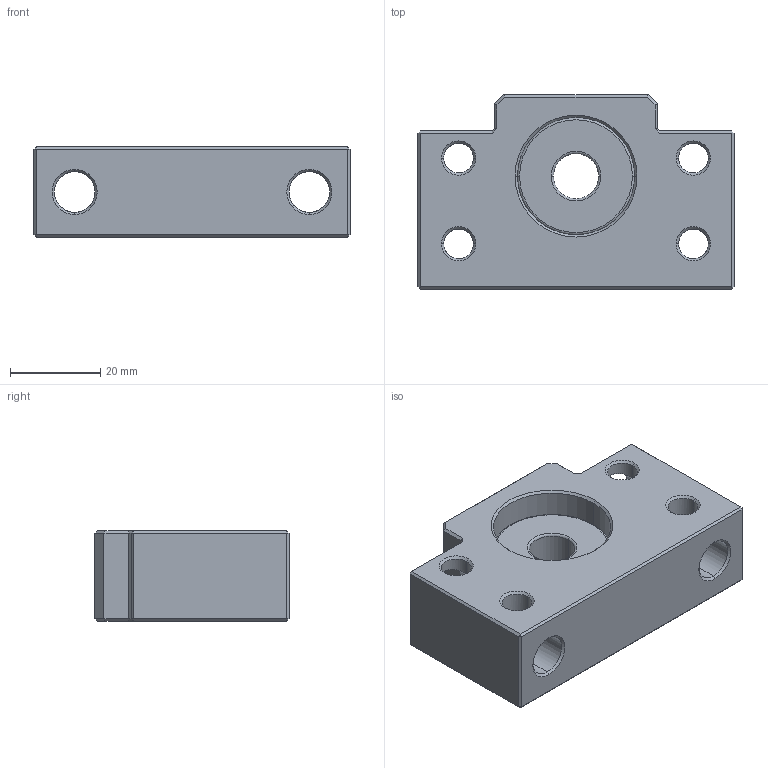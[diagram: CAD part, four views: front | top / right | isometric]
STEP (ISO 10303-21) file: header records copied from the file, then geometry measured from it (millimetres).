
FILE_DESCRIPTION (( 'STEP AP203' ), '1' );
FILE_NAME ('ASGF-12_203.STEP', '2013-02-26T00:33:50', ( '' ), ( '' ), 'SwSTEP 2.0', 'SolidWorks 2012', '' );
FILE_SCHEMA (( 'CONFIG_CONTROL_DESIGN' ));
Length unit declared in the file: millimetre
Products named in the file (1): ASGF-12_203
Bounding box: 70 x 43 x 20 mm (x, y, z)
Volume: 39871.7 mm3; surface area: 13132.8 mm2
Topology: 1 solids, 1 shells, 120 faces, 294 edges, 170 vertices
Faces by surface type: plane 54, cylinder 30, cone 28, torus 8
Entity records: 4045 total; most frequent: CARTESIAN_POINT 1129, DIRECTION 594, ORIENTED_EDGE 588, EDGE_CURVE 294, AXIS2_PLACEMENT_3D 211, VECTOR 172, LINE 172, VERTEX_POINT 170
